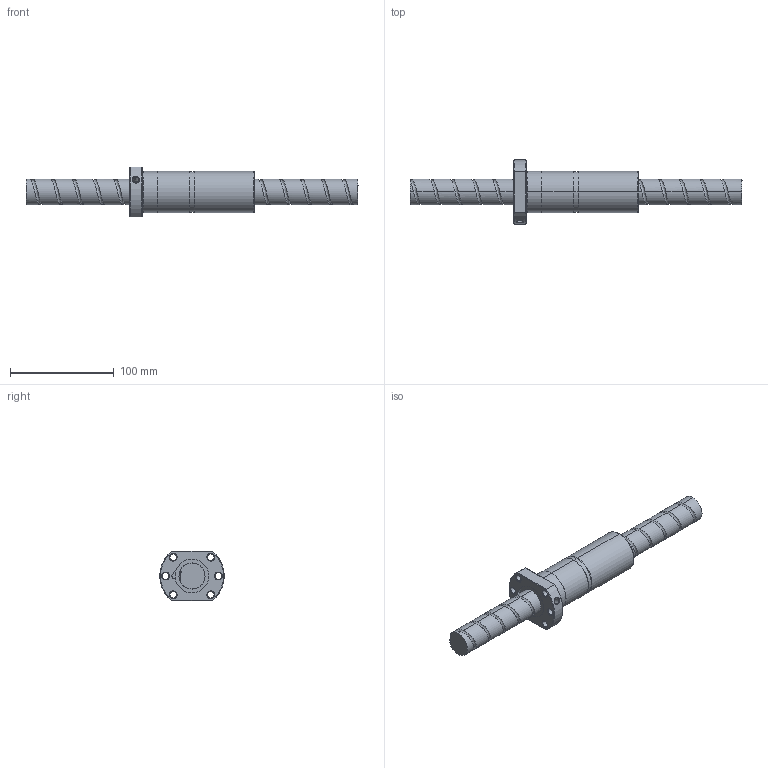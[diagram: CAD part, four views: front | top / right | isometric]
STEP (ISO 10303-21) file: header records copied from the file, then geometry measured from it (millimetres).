
FILE_DESCRIPTION (( 'STEP AP214' ), '1' );
FILE_NAME ('FDDC02520T2-B-C.STEP', '2010-07-06T03:23:09', ( 'XPAUTO' ), ( 'XPAUTO' ), 'SwSTEP 2.0', 'SolidWorks 2007', '' );
FILE_SCHEMA (( 'AUTOMOTIVE_DESIGN' ));
Length unit declared in the file: millimetre
Products named in the file (3): FDDC02520T2-B-C; FDDC02520T2-B-C.sldasm-Part-1_預設; FDDC02520T2-B-C.sldasm-Part-2_預設
Assembly tree (2 placements, depth 2):
  FDDC02520T2-B-C
    FDDC02520T2-B-C.sldasm-Part-2_預設
    FDDC02520T2-B-C.sldasm-Part-1_預設
Bounding box: 320 x 61.8 x 48 mm (x, y, z)
Volume: 256216.4 mm3; surface area: 58516.4 mm2
Topology: 2 solids, 2 shells, 136 faces, 334 edges, 207 vertices
Faces by surface type: cylinder 75, cone 24, plane 22, torus 10, bspline 5
Entity records: 25541 total; most frequent: CARTESIAN_POINT 22323, ORIENTED_EDGE 668, DIRECTION 636, EDGE_CURVE 334, AXIS2_PLACEMENT_3D 260, VERTEX_POINT 207, EDGE_LOOP 157, ADVANCED_FACE 136
